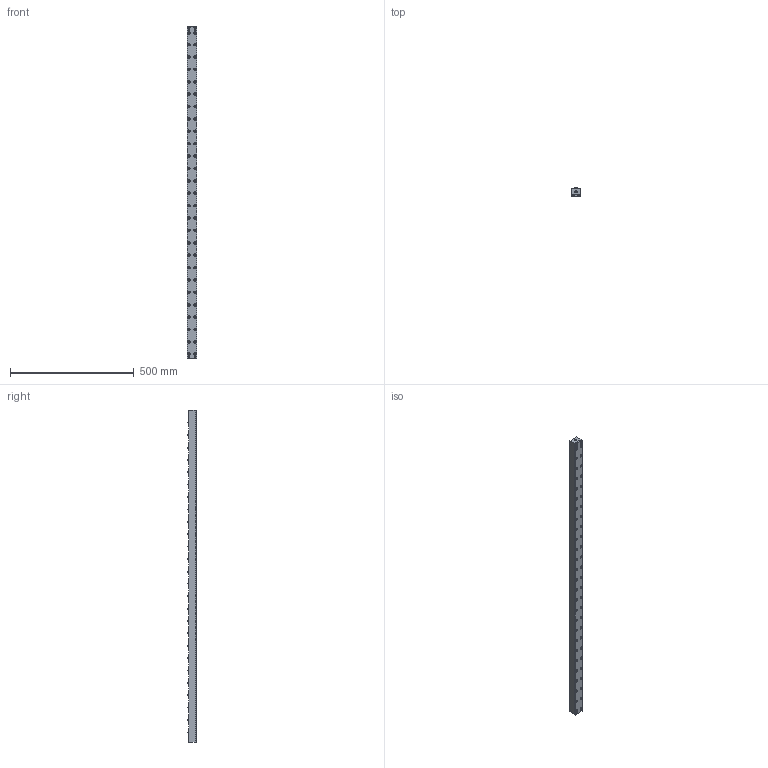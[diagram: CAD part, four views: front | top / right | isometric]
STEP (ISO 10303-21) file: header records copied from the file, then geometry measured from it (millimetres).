
FILE_DESCRIPTION (( 'STEP AP203' ), '1' );
FILE_NAME ('PVL30SL-26-P50.STEP', '2016-02-18T09:15:29', ( '' ), ( '' ), 'SwSTEP 2.0', 'SolidWorks 2013', '' );
FILE_SCHEMA (( 'CONFIG_CONTROL_DESIGN' ));
Length unit declared in the file: millimetre
Products named in the file (1): PVL30SL-26-P50
Bounding box: 38 x 36 x 1340 mm (x, y, z)
Volume: 1585629.8 mm3; surface area: 433036.4 mm2
Topology: 9 solids, 9 shells, 1033 faces, 2340 edges, 1557 vertices
Faces by surface type: plane 579, cylinder 362, sphere 52, cone 40
Entity records: 29229 total; most frequent: DIRECTION 5274, CARTESIAN_POINT 4917, ORIENTED_EDGE 4652, EDGE_CURVE 2326, AXIS2_PLACEMENT_3D 1914, VERTEX_POINT 1557, LINE 1446, VECTOR 1446
